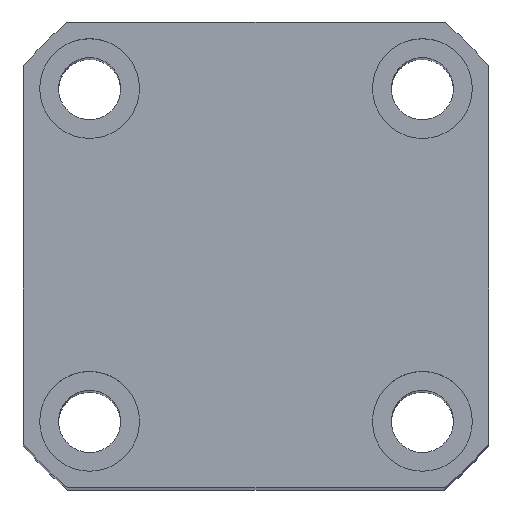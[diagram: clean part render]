
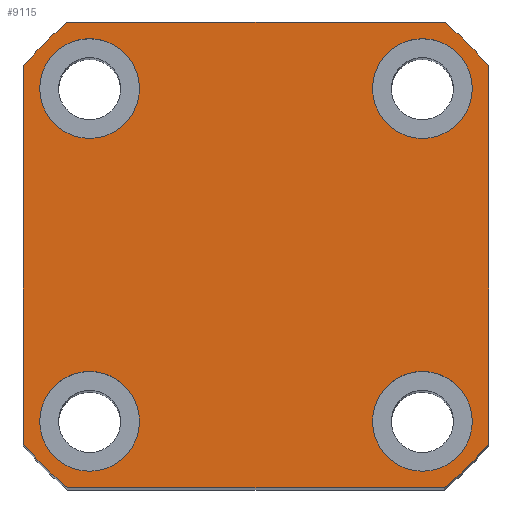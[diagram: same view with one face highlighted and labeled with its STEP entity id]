
A CAD part, top view. The second image highlights one B-rep face of the part: STEP entity #9115.
In plain terms, the highlighted planar face has unit normal (0, 0, 1).
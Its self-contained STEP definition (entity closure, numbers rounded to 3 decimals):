
#26 = ORIENTED_EDGE ( 'NONE', *, *, #5924, .F. ) ;
#55 = VERTEX_POINT ( 'NONE', #7079 ) ;
#71 = VERTEX_POINT ( 'NONE', #7058 ) ;
#157 = VERTEX_POINT ( 'NONE', #8949 ) ;
#198 = ORIENTED_EDGE ( 'NONE', *, *, #9420, .F. ) ;
#236 = VERTEX_POINT ( 'NONE', #7064 ) ;
#373 = CIRCLE ( 'NONE', #6101, 4.5 ) ;
#402 = AXIS2_PLACEMENT_3D ( 'NONE', #1948, #9441, #2998 ) ;
#405 = DIRECTION ( 'NONE',  ( -1., 0., 0. ) ) ;
#437 = CARTESIAN_POINT ( 'NONE',  ( 15., -14.998, 108. ) ) ;
#448 = DIRECTION ( 'NONE',  ( 0., 0., 1. ) ) ;
#462 = DIRECTION ( 'NONE',  ( 1., 0., 0. ) ) ;
#518 = EDGE_CURVE ( 'NONE', #55, #3888, #7949, .T. ) ;
#562 = AXIS2_PLACEMENT_3D ( 'NONE', #5684, #5702, #5754 ) ;
#624 = CARTESIAN_POINT ( 'NONE',  ( -15., 15.002, 108. ) ) ;
#844 = FACE_BOUND ( 'NONE', #8076, .T. ) ;
#850 = CARTESIAN_POINT ( 'NONE',  ( -10.5, -14.998, 108. ) ) ;
#1085 = AXIS2_PLACEMENT_3D ( 'NONE', #624, #8060, #1676 ) ;
#1170 = CARTESIAN_POINT ( 'NONE',  ( 15., 15., 108. ) ) ;
#1344 = AXIS2_PLACEMENT_3D ( 'NONE', #10535, #4113, #11654 ) ;
#1482 = CARTESIAN_POINT ( 'NONE',  ( -21., 21., 108. ) ) ;
#1676 = DIRECTION ( 'NONE',  ( 1., 0., 0. ) ) ;
#1844 = DIRECTION ( 'NONE',  ( 0., 1., 0. ) ) ;
#1871 = VERTEX_POINT ( 'NONE', #9102 ) ;
#1945 = ORIENTED_EDGE ( 'NONE', *, *, #6776, .F. ) ;
#1948 = CARTESIAN_POINT ( 'NONE',  ( -15., -14.998, 108. ) ) ;
#2037 = AXIS2_PLACEMENT_3D ( 'NONE', #2976, #5152, #12689 ) ;
#2220 = DIRECTION ( 'NONE',  ( 1., 0., 0. ) ) ;
#2330 = ORIENTED_EDGE ( 'NONE', *, *, #9376, .F. ) ;
#2340 = EDGE_CURVE ( 'NONE', #157, #6791, #2914, .T. ) ;
#2355 = EDGE_CURVE ( 'NONE', #2977, #12673, #11174, .T. ) ;
#2435 = ORIENTED_EDGE ( 'NONE', *, *, #3240, .F. ) ;
#2545 = EDGE_LOOP ( 'NONE', ( #26, #5769 ) ) ;
#2646 = DIRECTION ( 'NONE',  ( 0., 0., 1. ) ) ;
#2663 = CARTESIAN_POINT ( 'NONE',  ( 15., -14.998, 108. ) ) ;
#2914 = CIRCLE ( 'NONE', #10309, 4.5 ) ;
#2976 = CARTESIAN_POINT ( 'NONE',  ( 0., 0., 108. ) ) ;
#2977 = VERTEX_POINT ( 'NONE', #7257 ) ;
#2998 = DIRECTION ( 'NONE',  ( 1., 0., 0. ) ) ;
#3116 = CARTESIAN_POINT ( 'NONE',  ( -15., -14.998, 108. ) ) ;
#3220 = DIRECTION ( 'NONE',  ( 1., 0., 0. ) ) ;
#3240 = EDGE_CURVE ( 'NONE', #6791, #157, #9299, .T. ) ;
#3311 = CIRCLE ( 'NONE', #1344, 4.5 ) ;
#3455 = DIRECTION ( 'NONE',  ( 1., 0., 0. ) ) ;
#3586 = ORIENTED_EDGE ( 'NONE', *, *, #2340, .F. ) ;
#3698 = CARTESIAN_POINT ( 'NONE',  ( 21., -16.971, 108. ) ) ;
#3774 = CARTESIAN_POINT ( 'NONE',  ( -15., 15.002, 108. ) ) ;
#3776 = CARTESIAN_POINT ( 'NONE',  ( 16.971, -21., 108. ) ) ;
#3789 = ORIENTED_EDGE ( 'NONE', *, *, #11609, .T. ) ;
#3820 = CIRCLE ( 'NONE', #5445, 27. ) ;
#3888 = VERTEX_POINT ( 'NONE', #3776 ) ;
#3932 = EDGE_CURVE ( 'NONE', #1871, #2977, #10991, .T. ) ;
#4113 = DIRECTION ( 'NONE',  ( 0., 0., 1. ) ) ;
#4194 = VERTEX_POINT ( 'NONE', #850 ) ;
#4210 = DIRECTION ( 'NONE',  ( 1., 0., 0. ) ) ;
#4212 = LINE ( 'NONE', #1482, #7371 ) ;
#4241 = CARTESIAN_POINT ( 'NONE',  ( 10.5, 15., 108. ) ) ;
#4395 = EDGE_CURVE ( 'NONE', #13047, #55, #11150, .T. ) ;
#4494 = CIRCLE ( 'NONE', #8498, 4.5 ) ;
#4828 = CIRCLE ( 'NONE', #1085, 4.5 ) ;
#4857 = DIRECTION ( 'NONE',  ( 1., 0., 0. ) ) ;
#5152 = DIRECTION ( 'NONE',  ( 0., 0., 1. ) ) ;
#5193 = DIRECTION ( 'NONE',  ( 0., 0., 1. ) ) ;
#5226 = VERTEX_POINT ( 'NONE', #6668 ) ;
#5294 = CARTESIAN_POINT ( 'NONE',  ( 0., 0., 108. ) ) ;
#5404 = VERTEX_POINT ( 'NONE', #3698 ) ;
#5445 = AXIS2_PLACEMENT_3D ( 'NONE', #5294, #12830, #6353 ) ;
#5447 = VECTOR ( 'NONE', #405, 1000. ) ;
#5684 = CARTESIAN_POINT ( 'NONE',  ( 0., 0., 108. ) ) ;
#5702 = DIRECTION ( 'NONE',  ( 0., 0., 1. ) ) ;
#5754 = DIRECTION ( 'NONE',  ( 1., 0., 0. ) ) ;
#5769 = ORIENTED_EDGE ( 'NONE', *, *, #6554, .F. ) ;
#5924 = EDGE_CURVE ( 'NONE', #4194, #5226, #11782, .T. ) ;
#5988 = CARTESIAN_POINT ( 'NONE',  ( -19.5, 15.002, 108. ) ) ;
#6091 = CARTESIAN_POINT ( 'NONE',  ( 21., 21., 108. ) ) ;
#6101 = AXIS2_PLACEMENT_3D ( 'NONE', #1170, #8644, #2220 ) ;
#6132 = ORIENTED_EDGE ( 'NONE', *, *, #518, .T. ) ;
#6159 = FACE_OUTER_BOUND ( 'NONE', #10790, .T. ) ;
#6168 = AXIS2_PLACEMENT_3D ( 'NONE', #11652, #5193, #12726 ) ;
#6170 = PLANE ( 'NONE',  #2037 ) ;
#6353 = DIRECTION ( 'NONE',  ( 1., 0., 0. ) ) ;
#6485 = FACE_BOUND ( 'NONE', #9085, .T. ) ;
#6554 = EDGE_CURVE ( 'NONE', #5226, #4194, #6997, .T. ) ;
#6622 = AXIS2_PLACEMENT_3D ( 'NONE', #3116, #10639, #4210 ) ;
#6636 = VERTEX_POINT ( 'NONE', #12749 ) ;
#6668 = CARTESIAN_POINT ( 'NONE',  ( -19.5, -14.998, 108. ) ) ;
#6776 = EDGE_CURVE ( 'NONE', #6636, #13312, #373, .T. ) ;
#6777 = AXIS2_PLACEMENT_3D ( 'NONE', #10016, #11418, #3220 ) ;
#6791 = VERTEX_POINT ( 'NONE', #11870 ) ;
#6925 = ORIENTED_EDGE ( 'NONE', *, *, #4395, .T. ) ;
#6997 = CIRCLE ( 'NONE', #402, 4.5 ) ;
#7058 = CARTESIAN_POINT ( 'NONE',  ( -10.5, 15.002, 108. ) ) ;
#7064 = CARTESIAN_POINT ( 'NONE',  ( -21., 16.971, 108. ) ) ;
#7079 = CARTESIAN_POINT ( 'NONE',  ( -16.971, -21., 108. ) ) ;
#7257 = CARTESIAN_POINT ( 'NONE',  ( 16.971, 21., 108. ) ) ;
#7321 = VECTOR ( 'NONE', #1844, 1000. ) ;
#7371 = VECTOR ( 'NONE', #7812, 1000. ) ;
#7469 = DIRECTION ( 'NONE',  ( 1., 0., 0. ) ) ;
#7488 = CARTESIAN_POINT ( 'NONE',  ( -21., -21., 108. ) ) ;
#7746 = EDGE_LOOP ( 'NONE', ( #1945, #12852 ) ) ;
#7812 = DIRECTION ( 'NONE',  ( 0., -1., 0. ) ) ;
#7949 = LINE ( 'NONE', #7488, #10858 ) ;
#8060 = DIRECTION ( 'NONE',  ( 0., 0., 1. ) ) ;
#8076 = EDGE_LOOP ( 'NONE', ( #3586, #2435 ) ) ;
#8379 = EDGE_CURVE ( 'NONE', #5404, #1871, #10209, .T. ) ;
#8498 = AXIS2_PLACEMENT_3D ( 'NONE', #3774, #11318, #4857 ) ;
#8599 = EDGE_CURVE ( 'NONE', #12673, #236, #3820, .T. ) ;
#8644 = DIRECTION ( 'NONE',  ( 0., 0., 1. ) ) ;
#8949 = CARTESIAN_POINT ( 'NONE',  ( 19.5, -14.998, 108. ) ) ;
#9018 = FACE_BOUND ( 'NONE', #7746, .T. ) ;
#9085 = EDGE_LOOP ( 'NONE', ( #2330, #198 ) ) ;
#9102 = CARTESIAN_POINT ( 'NONE',  ( 21., 16.971, 108. ) ) ;
#9115 = ADVANCED_FACE ( 'NONE', ( #6485, #11921, #844, #9018, #6159 ), #6170, .T. ) ;
#9131 = EDGE_CURVE ( 'NONE', #13312, #6636, #3311, .T. ) ;
#9299 = CIRCLE ( 'NONE', #10971, 4.5 ) ;
#9376 = EDGE_CURVE ( 'NONE', #71, #12128, #4494, .T. ) ;
#9420 = EDGE_CURVE ( 'NONE', #12128, #71, #4828, .T. ) ;
#9441 = DIRECTION ( 'NONE',  ( 0., 0., 1. ) ) ;
#9618 = CARTESIAN_POINT ( 'NONE',  ( -21., 21., 108. ) ) ;
#10016 = CARTESIAN_POINT ( 'NONE',  ( 0., 0., 108. ) ) ;
#10169 = CIRCLE ( 'NONE', #6168, 27. ) ;
#10209 = LINE ( 'NONE', #6091, #7321 ) ;
#10248 = CARTESIAN_POINT ( 'NONE',  ( -21., -16.971, 108. ) ) ;
#10309 = AXIS2_PLACEMENT_3D ( 'NONE', #437, #448, #462 ) ;
#10478 = ORIENTED_EDGE ( 'NONE', *, *, #2355, .T. ) ;
#10535 = CARTESIAN_POINT ( 'NONE',  ( 15., 15., 108. ) ) ;
#10639 = DIRECTION ( 'NONE',  ( 0., 0., 1. ) ) ;
#10790 = EDGE_LOOP ( 'NONE', ( #11899, #13714, #10478, #13207, #11551, #6925, #6132, #3789 ) ) ;
#10858 = VECTOR ( 'NONE', #7469, 1000. ) ;
#10971 = AXIS2_PLACEMENT_3D ( 'NONE', #2663, #2646, #3455 ) ;
#10991 = CIRCLE ( 'NONE', #6777, 27. ) ;
#11150 = CIRCLE ( 'NONE', #562, 27. ) ;
#11174 = LINE ( 'NONE', #9618, #5447 ) ;
#11318 = DIRECTION ( 'NONE',  ( 0., 0., 1. ) ) ;
#11418 = DIRECTION ( 'NONE',  ( 0., 0., 1. ) ) ;
#11551 = ORIENTED_EDGE ( 'NONE', *, *, #13589, .T. ) ;
#11609 = EDGE_CURVE ( 'NONE', #3888, #5404, #10169, .T. ) ;
#11652 = CARTESIAN_POINT ( 'NONE',  ( 0., 0., 108. ) ) ;
#11654 = DIRECTION ( 'NONE',  ( 1., 0., 0. ) ) ;
#11782 = CIRCLE ( 'NONE', #6622, 4.5 ) ;
#11870 = CARTESIAN_POINT ( 'NONE',  ( 10.5, -14.998, 108. ) ) ;
#11899 = ORIENTED_EDGE ( 'NONE', *, *, #8379, .T. ) ;
#11912 = CARTESIAN_POINT ( 'NONE',  ( -16.971, 21., 108. ) ) ;
#11921 = FACE_BOUND ( 'NONE', #2545, .T. ) ;
#12128 = VERTEX_POINT ( 'NONE', #5988 ) ;
#12673 = VERTEX_POINT ( 'NONE', #11912 ) ;
#12689 = DIRECTION ( 'NONE',  ( 1., 0., 0. ) ) ;
#12726 = DIRECTION ( 'NONE',  ( 1., 0., 0. ) ) ;
#12749 = CARTESIAN_POINT ( 'NONE',  ( 19.5, 15., 108. ) ) ;
#12830 = DIRECTION ( 'NONE',  ( 0., 0., 1. ) ) ;
#12852 = ORIENTED_EDGE ( 'NONE', *, *, #9131, .F. ) ;
#13047 = VERTEX_POINT ( 'NONE', #10248 ) ;
#13207 = ORIENTED_EDGE ( 'NONE', *, *, #8599, .T. ) ;
#13312 = VERTEX_POINT ( 'NONE', #4241 ) ;
#13589 = EDGE_CURVE ( 'NONE', #236, #13047, #4212, .T. ) ;
#13714 = ORIENTED_EDGE ( 'NONE', *, *, #3932, .T. ) ;
